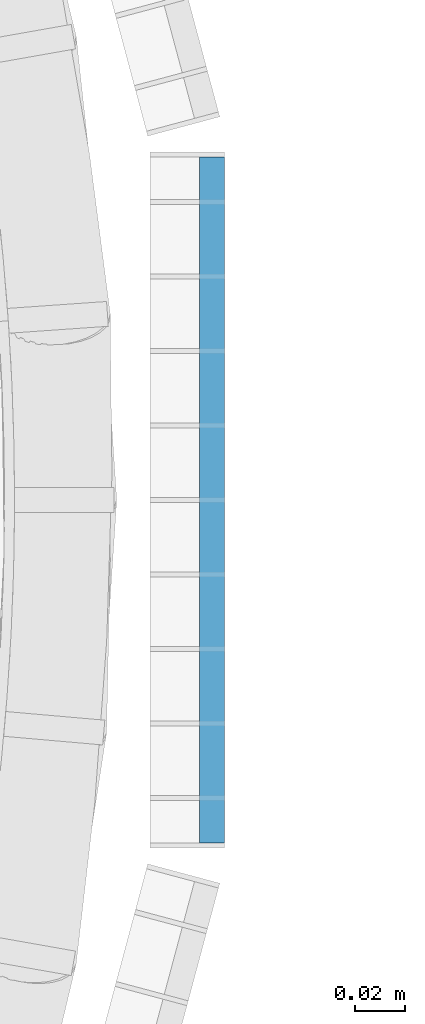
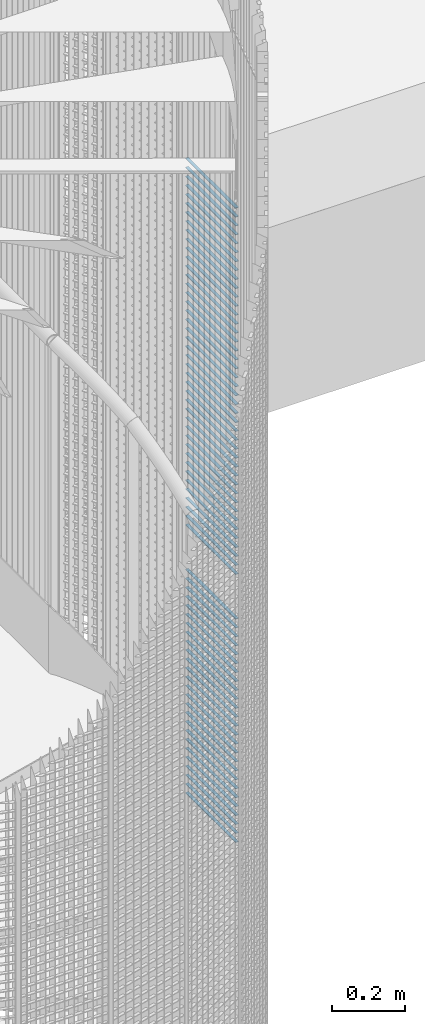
# One storey, part 284 of 1148: 68 beams, 1 element without a shape of its own.
"""IFC2X3 building model written with IfcOpenShell, lengths in millimetres."""

from ifc_helpers import new_model, si_unit, frame, origin_with_axes, origin_2d_with_axis, place, context, subcontext, project, spatial, rectangle, extrude, material, type_object, element, aggregate, save


model = new_model("IFC2X3")

# Units and contexts
model_context = context("Model", 3, precision=1e-05, world=origin_with_axes())
body_context = subcontext(model_context, "Body", "Model", "MODEL_VIEW")
ifc_project = project(units=[si_unit("LENGTHUNIT", "METRE", prefix="MILLI"), si_unit("AREAUNIT", "SQUARE_METRE"), si_unit("VOLUMEUNIT", "CUBIC_METRE"), si_unit("MASSUNIT", "GRAM", prefix="KILO"), si_unit("TIMEUNIT", "SECOND"), si_unit("PLANEANGLEUNIT", "RADIAN"), si_unit("SOLIDANGLEUNIT", "STERADIAN"), si_unit("THERMODYNAMICTEMPERATUREUNIT", "DEGREE_CELSIUS"), si_unit("LUMINOUSINTENSITYUNIT", "LUMEN")], contexts=[model_context])

# Site, building, storey
site_placement = place(None, origin_with_axes())
site = spatial("IfcSite", under=ifc_project, at=site_placement, Name="Undefined", CompositionType="ELEMENT")
building_placement = place(site_placement, origin_with_axes())
building = spatial("IfcBuilding", under=site, at=building_placement, Name="Undefined", CompositionType="ELEMENT")
storey_placement = place(building_placement, origin_with_axes())
storey = spatial("IfcBuildingStorey", under=building, at=storey_placement, Name="Undefined", CompositionType="ELEMENT", Elevation=0.0)

# Assembly, beams
assembly_placement = place(storey_placement, origin_with_axes())
assembly = element("IfcElementAssembly", 1, at=assembly_placement, inside=storey, Name="BORDURE", AssemblyPlace="NOTDEFINED", PredefinedType="NOTDEFINED")
ifc_material = material(Name="STEEL/S235JR")
beam_type = type_object("IfcBeamType", Name="PL2*10", PredefinedType="NOTDEFINED")
beam_1_placement = place(assembly_placement, frame((1113.47999999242, -137.996003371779, 8370.0), z_axis=(1.0, 0.0, 0.0), x_axis=(0.0, 1.0, 0.0)))
beam_1 = element("IfcBeam", 2, at=beam_1_placement, type_object=beam_type, material=ifc_material, Name="ENTRETOISE", context=body_context, shape_type="SweptSolid", body=[
    extrude(rectangle(XDim=2.0, YDim=10.0, at=origin_2d_with_axis()), frame((275.999999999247, 9.09494701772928e-13, 1.53210777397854e-14), z_axis=(-1.0, 0.0, 0.0), x_axis=(0.0, -1.0, 0.0)), (0.0, 0.0, 1.0), 276.0),
])
beam_2_placement = place(assembly_placement, frame((1113.47999999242, -137.996003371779, 8340.0), z_axis=(1.0, 0.0, 0.0), x_axis=(0.0, 1.0, 0.0)))
beam_2 = element("IfcBeam", 3, at=beam_2_placement, type_object=beam_type, material=ifc_material, Name="ENTRETOISE", context=body_context, shape_type="SweptSolid", body=[
    extrude(rectangle(XDim=2.0, YDim=10.0, at=origin_2d_with_axis()), frame((275.999999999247, 9.09494701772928e-13, 1.53210777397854e-14), z_axis=(-1.0, 0.0, 0.0), x_axis=(0.0, -1.0, 0.0)), (0.0, 0.0, 1.0), 276.0),
])
beam_3_placement = place(assembly_placement, frame((1113.47999999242, -137.996003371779, 8310.0), z_axis=(1.0, 0.0, 0.0), x_axis=(0.0, 1.0, 0.0)))
beam_3 = element("IfcBeam", 4, at=beam_3_placement, type_object=beam_type, material=ifc_material, Name="ENTRETOISE", context=body_context, shape_type="SweptSolid", body=[
    extrude(rectangle(XDim=2.0, YDim=10.0, at=origin_2d_with_axis()), frame((275.999999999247, 9.09494701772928e-13, 1.53210777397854e-14), z_axis=(-1.0, 0.0, 0.0), x_axis=(0.0, -1.0, 0.0)), (0.0, 0.0, 1.0), 276.0),
])
beam_4_placement = place(assembly_placement, frame((1113.47999999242, -137.996003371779, 8280.0), z_axis=(1.0, 0.0, 0.0), x_axis=(0.0, 1.0, 0.0)))
beam_4 = element("IfcBeam", 5, at=beam_4_placement, type_object=beam_type, material=ifc_material, Name="ENTRETOISE", context=body_context, shape_type="SweptSolid", body=[
    extrude(rectangle(XDim=2.0, YDim=10.0, at=origin_2d_with_axis()), frame((275.999999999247, 9.09494701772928e-13, 1.53210777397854e-14), z_axis=(-1.0, 0.0, 0.0), x_axis=(0.0, -1.0, 0.0)), (0.0, 0.0, 1.0), 276.0),
])
beam_5_placement = place(assembly_placement, frame((1113.47999999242, -137.996003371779, 8250.0), z_axis=(1.0, 0.0, 0.0), x_axis=(0.0, 1.0, 0.0)))
beam_5 = element("IfcBeam", 6, at=beam_5_placement, type_object=beam_type, material=ifc_material, Name="ENTRETOISE", context=body_context, shape_type="SweptSolid", body=[
    extrude(rectangle(XDim=2.0, YDim=10.0, at=origin_2d_with_axis()), frame((275.999999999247, 9.09494701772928e-13, 1.53210777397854e-14), z_axis=(-1.0, 0.0, 0.0), x_axis=(0.0, -1.0, 0.0)), (0.0, 0.0, 1.0), 276.0),
])
beam_6_placement = place(assembly_placement, frame((1113.47999999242, -137.996003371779, 8220.0), z_axis=(1.0, 0.0, 0.0), x_axis=(0.0, 1.0, 0.0)))
beam_6 = element("IfcBeam", 7, at=beam_6_placement, type_object=beam_type, material=ifc_material, Name="ENTRETOISE", context=body_context, shape_type="SweptSolid", body=[
    extrude(rectangle(XDim=2.0, YDim=10.0, at=origin_2d_with_axis()), frame((275.999999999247, 9.09494701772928e-13, 1.53210777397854e-14), z_axis=(-1.0, 0.0, 0.0), x_axis=(0.0, -1.0, 0.0)), (0.0, 0.0, 1.0), 276.0),
])
beam_7_placement = place(assembly_placement, frame((1113.47999999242, -137.996003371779, 8190.0), z_axis=(1.0, 0.0, 0.0), x_axis=(0.0, 1.0, 0.0)))
beam_7 = element("IfcBeam", 8, at=beam_7_placement, type_object=beam_type, material=ifc_material, Name="ENTRETOISE", context=body_context, shape_type="SweptSolid", body=[
    extrude(rectangle(XDim=2.0, YDim=10.0, at=origin_2d_with_axis()), frame((275.999999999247, 9.09494701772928e-13, 1.53210777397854e-14), z_axis=(-1.0, 0.0, 0.0), x_axis=(0.0, -1.0, 0.0)), (0.0, 0.0, 1.0), 276.0),
])
beam_8_placement = place(assembly_placement, frame((1113.47999999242, -137.996003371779, 8160.0), z_axis=(1.0, 0.0, 0.0), x_axis=(0.0, 1.0, 0.0)))
beam_8 = element("IfcBeam", 9, at=beam_8_placement, type_object=beam_type, material=ifc_material, Name="ENTRETOISE", context=body_context, shape_type="SweptSolid", body=[
    extrude(rectangle(XDim=2.0, YDim=10.0, at=origin_2d_with_axis()), frame((275.999999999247, 9.09494701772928e-13, 1.53210777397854e-14), z_axis=(-1.0, 0.0, 0.0), x_axis=(0.0, -1.0, 0.0)), (0.0, 0.0, 1.0), 276.0),
])
beam_9_placement = place(assembly_placement, frame((1113.47999999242, -137.996003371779, 8130.0), z_axis=(1.0, 0.0, 0.0), x_axis=(0.0, 1.0, 0.0)))
beam_9 = element("IfcBeam", 10, at=beam_9_placement, type_object=beam_type, material=ifc_material, Name="ENTRETOISE", context=body_context, shape_type="SweptSolid", body=[
    extrude(rectangle(XDim=2.0, YDim=10.0, at=origin_2d_with_axis()), frame((275.999999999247, 9.09494701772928e-13, 1.53210777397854e-14), z_axis=(-1.0, 0.0, 0.0), x_axis=(0.0, -1.0, 0.0)), (0.0, 0.0, 1.0), 276.0),
])
beam_10_placement = place(assembly_placement, frame((1113.47999999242, -137.996003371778, 8100.0), z_axis=(1.0, 0.0, 0.0), x_axis=(0.0, 1.0, 0.0)))
beam_10 = element("IfcBeam", 11, at=beam_10_placement, type_object=beam_type, material=ifc_material, Name="ENTRETOISE", context=body_context, shape_type="SweptSolid", body=[
    extrude(rectangle(XDim=2.0, YDim=10.0, at=origin_2d_with_axis()), frame((275.999999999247, 9.09494701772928e-13, 1.53210777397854e-14), z_axis=(-1.0, 0.0, 0.0), x_axis=(0.0, -1.0, 0.0)), (0.0, 0.0, 1.0), 276.0),
])
beam_11_placement = place(assembly_placement, frame((1113.47999999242, -137.996003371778, 8070.0), z_axis=(1.0, 0.0, 0.0), x_axis=(0.0, 1.0, 0.0)))
beam_11 = element("IfcBeam", 12, at=beam_11_placement, type_object=beam_type, material=ifc_material, Name="ENTRETOISE", context=body_context, shape_type="SweptSolid", body=[
    extrude(rectangle(XDim=2.0, YDim=10.0, at=origin_2d_with_axis()), frame((275.999999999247, 9.09494701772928e-13, 1.53210777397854e-14), z_axis=(-1.0, 0.0, 0.0), x_axis=(0.0, -1.0, 0.0)), (0.0, 0.0, 1.0), 276.0),
])
beam_12_placement = place(assembly_placement, frame((1113.47999999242, -137.996003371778, 8040.0), z_axis=(1.0, 0.0, 0.0), x_axis=(0.0, 1.0, 0.0)))
beam_12 = element("IfcBeam", 13, at=beam_12_placement, type_object=beam_type, material=ifc_material, Name="ENTRETOISE", context=body_context, shape_type="SweptSolid", body=[
    extrude(rectangle(XDim=2.0, YDim=10.0, at=origin_2d_with_axis()), frame((275.999999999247, 9.09494701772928e-13, 1.53210777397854e-14), z_axis=(-1.0, 0.0, 0.0), x_axis=(0.0, -1.0, 0.0)), (0.0, 0.0, 1.0), 276.0),
])
beam_13_placement = place(assembly_placement, frame((1113.47999999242, -137.996003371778, 8010.0), z_axis=(1.0, 0.0, 0.0), x_axis=(0.0, 1.0, 0.0)))
beam_13 = element("IfcBeam", 14, at=beam_13_placement, type_object=beam_type, material=ifc_material, Name="ENTRETOISE", context=body_context, shape_type="SweptSolid", body=[
    extrude(rectangle(XDim=2.0, YDim=10.0, at=origin_2d_with_axis()), frame((275.999999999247, 9.09494701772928e-13, 1.53210777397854e-14), z_axis=(-1.0, 0.0, 0.0), x_axis=(0.0, -1.0, 0.0)), (0.0, 0.0, 1.0), 276.0),
])
beam_14_placement = place(assembly_placement, frame((1113.47999999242, -137.996003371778, 7980.0), z_axis=(1.0, 0.0, 0.0), x_axis=(0.0, 1.0, 0.0)))
beam_14 = element("IfcBeam", 15, at=beam_14_placement, type_object=beam_type, material=ifc_material, Name="ENTRETOISE", context=body_context, shape_type="SweptSolid", body=[
    extrude(rectangle(XDim=2.0, YDim=10.0, at=origin_2d_with_axis()), frame((275.999999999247, 9.09494701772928e-13, 1.53210777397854e-14), z_axis=(-1.0, 0.0, 0.0), x_axis=(0.0, -1.0, 0.0)), (0.0, 0.0, 1.0), 276.0),
])
beam_15_placement = place(assembly_placement, frame((1113.47999999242, -137.996003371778, 7950.0), z_axis=(1.0, 0.0, 0.0), x_axis=(0.0, 1.0, 0.0)))
beam_15 = element("IfcBeam", 16, at=beam_15_placement, type_object=beam_type, material=ifc_material, Name="ENTRETOISE", context=body_context, shape_type="SweptSolid", body=[
    extrude(rectangle(XDim=2.0, YDim=10.0, at=origin_2d_with_axis()), frame((275.999999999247, 9.09494701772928e-13, 1.53210777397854e-14), z_axis=(-1.0, 0.0, 0.0), x_axis=(0.0, -1.0, 0.0)), (0.0, 0.0, 1.0), 276.0),
])
beam_16_placement = place(assembly_placement, frame((1113.47999999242, -137.996003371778, 7920.0), z_axis=(1.0, 0.0, 0.0), x_axis=(0.0, 1.0, 0.0)))
beam_16 = element("IfcBeam", 17, at=beam_16_placement, type_object=beam_type, material=ifc_material, Name="ENTRETOISE", context=body_context, shape_type="SweptSolid", body=[
    extrude(rectangle(XDim=2.0, YDim=10.0, at=origin_2d_with_axis()), frame((275.999999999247, 9.09494701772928e-13, 1.53210777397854e-14), z_axis=(-1.0, 0.0, 0.0), x_axis=(0.0, -1.0, 0.0)), (0.0, 0.0, 1.0), 276.0),
])
beam_17_placement = place(assembly_placement, frame((1113.47999999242, -137.996003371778, 7890.0), z_axis=(1.0, 0.0, 0.0), x_axis=(0.0, 1.0, 0.0)))
beam_17 = element("IfcBeam", 18, at=beam_17_placement, type_object=beam_type, material=ifc_material, Name="ENTRETOISE", context=body_context, shape_type="SweptSolid", body=[
    extrude(rectangle(XDim=2.0, YDim=10.0, at=origin_2d_with_axis()), frame((275.999999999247, 9.09494701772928e-13, 1.53210777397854e-14), z_axis=(-1.0, 0.0, 0.0), x_axis=(0.0, -1.0, 0.0)), (0.0, 0.0, 1.0), 276.0),
])
beam_18_placement = place(assembly_placement, frame((1113.47999999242, -137.996003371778, 7860.0), z_axis=(1.0, 0.0, 0.0), x_axis=(0.0, 1.0, 0.0)))
beam_18 = element("IfcBeam", 19, at=beam_18_placement, type_object=beam_type, material=ifc_material, Name="ENTRETOISE", context=body_context, shape_type="SweptSolid", body=[
    extrude(rectangle(XDim=2.0, YDim=10.0, at=origin_2d_with_axis()), frame((275.999999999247, 9.09494701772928e-13, 1.53210777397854e-14), z_axis=(-1.0, 0.0, 0.0), x_axis=(0.0, -1.0, 0.0)), (0.0, 0.0, 1.0), 276.0),
])
beam_19_placement = place(assembly_placement, frame((1113.47999999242, -137.996003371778, 7830.0), z_axis=(1.0, 0.0, 0.0), x_axis=(0.0, 1.0, 0.0)))
beam_19 = element("IfcBeam", 20, at=beam_19_placement, type_object=beam_type, material=ifc_material, Name="ENTRETOISE", context=body_context, shape_type="SweptSolid", body=[
    extrude(rectangle(XDim=2.0, YDim=10.0, at=origin_2d_with_axis()), frame((275.999999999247, 9.09494701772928e-13, 1.53210777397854e-14), z_axis=(-1.0, 0.0, 0.0), x_axis=(0.0, -1.0, 0.0)), (0.0, 0.0, 1.0), 276.0),
])
beam_20_placement = place(assembly_placement, frame((1113.47999999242, -137.996003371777, 7800.0), z_axis=(1.0, 0.0, 0.0), x_axis=(0.0, 1.0, 0.0)))
beam_20 = element("IfcBeam", 21, at=beam_20_placement, type_object=beam_type, material=ifc_material, Name="ENTRETOISE", context=body_context, shape_type="SweptSolid", body=[
    extrude(rectangle(XDim=2.0, YDim=10.0, at=origin_2d_with_axis()), frame((275.999999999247, 9.09494701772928e-13, 1.53210777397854e-14), z_axis=(-1.0, 0.0, 0.0), x_axis=(0.0, -1.0, 0.0)), (0.0, 0.0, 1.0), 276.0),
])
beam_21_placement = place(assembly_placement, frame((1113.47999999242, -137.996003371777, 7770.0), z_axis=(1.0, 0.0, 0.0), x_axis=(0.0, 1.0, 0.0)))
beam_21 = element("IfcBeam", 22, at=beam_21_placement, type_object=beam_type, material=ifc_material, Name="ENTRETOISE", context=body_context, shape_type="SweptSolid", body=[
    extrude(rectangle(XDim=2.0, YDim=10.0, at=origin_2d_with_axis()), frame((275.999999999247, 9.09494701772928e-13, 1.53210777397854e-14), z_axis=(-1.0, 0.0, 0.0), x_axis=(0.0, -1.0, 0.0)), (0.0, 0.0, 1.0), 276.0),
])
beam_22_placement = place(assembly_placement, frame((1113.47999999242, -137.996003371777, 7740.0), z_axis=(1.0, 0.0, 0.0), x_axis=(0.0, 1.0, 0.0)))
beam_22 = element("IfcBeam", 23, at=beam_22_placement, type_object=beam_type, material=ifc_material, Name="ENTRETOISE", context=body_context, shape_type="SweptSolid", body=[
    extrude(rectangle(XDim=2.0, YDim=10.0, at=origin_2d_with_axis()), frame((275.999999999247, 9.09494701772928e-13, 1.53210777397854e-14), z_axis=(-1.0, 0.0, 0.0), x_axis=(0.0, -1.0, 0.0)), (0.0, 0.0, 1.0), 276.0),
])
beam_23_placement = place(assembly_placement, frame((1113.47999999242, -137.996003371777, 7710.0), z_axis=(1.0, 0.0, 0.0), x_axis=(0.0, 1.0, 0.0)))
beam_23 = element("IfcBeam", 24, at=beam_23_placement, type_object=beam_type, material=ifc_material, Name="ENTRETOISE", context=body_context, shape_type="SweptSolid", body=[
    extrude(rectangle(XDim=2.0, YDim=10.0, at=origin_2d_with_axis()), frame((275.999999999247, 9.09494701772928e-13, 1.53210777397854e-14), z_axis=(-1.0, 0.0, 0.0), x_axis=(0.0, -1.0, 0.0)), (0.0, 0.0, 1.0), 276.0),
])
beam_24_placement = place(assembly_placement, frame((1113.47999999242, -137.996003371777, 7680.0), z_axis=(1.0, 0.0, 0.0), x_axis=(0.0, 1.0, 0.0)))
beam_24 = element("IfcBeam", 25, at=beam_24_placement, type_object=beam_type, material=ifc_material, Name="ENTRETOISE", context=body_context, shape_type="SweptSolid", body=[
    extrude(rectangle(XDim=2.0, YDim=10.0, at=origin_2d_with_axis()), frame((275.999999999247, 9.09494701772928e-13, 1.53210777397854e-14), z_axis=(-1.0, 0.0, 0.0), x_axis=(0.0, -1.0, 0.0)), (0.0, 0.0, 1.0), 276.0),
])
beam_25_placement = place(assembly_placement, frame((1113.47999999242, -137.996003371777, 7650.0), z_axis=(1.0, 0.0, 0.0), x_axis=(0.0, 1.0, 0.0)))
beam_25 = element("IfcBeam", 26, at=beam_25_placement, type_object=beam_type, material=ifc_material, Name="ENTRETOISE", context=body_context, shape_type="SweptSolid", body=[
    extrude(rectangle(XDim=2.0, YDim=10.0, at=origin_2d_with_axis()), frame((275.999999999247, 9.09494701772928e-13, 1.53210777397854e-14), z_axis=(-1.0, 0.0, 0.0), x_axis=(0.0, -1.0, 0.0)), (0.0, 0.0, 1.0), 276.0),
])
beam_26_placement = place(assembly_placement, frame((1113.47999999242, -137.996003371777, 7620.0), z_axis=(1.0, 0.0, 0.0), x_axis=(0.0, 1.0, 0.0)))
beam_26 = element("IfcBeam", 27, at=beam_26_placement, type_object=beam_type, material=ifc_material, Name="ENTRETOISE", context=body_context, shape_type="SweptSolid", body=[
    extrude(rectangle(XDim=2.0, YDim=10.0, at=origin_2d_with_axis()), frame((275.999999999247, 9.09494701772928e-13, 1.53210777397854e-14), z_axis=(-1.0, 0.0, 0.0), x_axis=(0.0, -1.0, 0.0)), (0.0, 0.0, 1.0), 276.0),
])
beam_27_placement = place(assembly_placement, frame((1113.47999999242, -137.996003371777, 7590.0), z_axis=(1.0, 0.0, 0.0), x_axis=(0.0, 1.0, 0.0)))
beam_27 = element("IfcBeam", 28, at=beam_27_placement, type_object=beam_type, material=ifc_material, Name="ENTRETOISE", context=body_context, shape_type="SweptSolid", body=[
    extrude(rectangle(XDim=2.0, YDim=10.0, at=origin_2d_with_axis()), frame((275.999999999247, 9.09494701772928e-13, 1.53210777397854e-14), z_axis=(-1.0, 0.0, 0.0), x_axis=(0.0, -1.0, 0.0)), (0.0, 0.0, 1.0), 276.0),
])
beam_28_placement = place(assembly_placement, frame((1113.47999999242, -137.996003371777, 7560.0), z_axis=(1.0, 0.0, 0.0), x_axis=(0.0, 1.0, 0.0)))
beam_28 = element("IfcBeam", 29, at=beam_28_placement, type_object=beam_type, material=ifc_material, Name="ENTRETOISE", context=body_context, shape_type="SweptSolid", body=[
    extrude(rectangle(XDim=2.0, YDim=10.0, at=origin_2d_with_axis()), frame((275.999999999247, 9.09494701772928e-13, 1.53210777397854e-14), z_axis=(-1.0, 0.0, 0.0), x_axis=(0.0, -1.0, 0.0)), (0.0, 0.0, 1.0), 276.0),
])
beam_29_placement = place(assembly_placement, frame((1113.47999999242, -137.996003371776, 7530.0), z_axis=(1.0, 0.0, 0.0), x_axis=(0.0, 1.0, 0.0)))
beam_29 = element("IfcBeam", 30, at=beam_29_placement, type_object=beam_type, material=ifc_material, Name="ENTRETOISE", context=body_context, shape_type="SweptSolid", body=[
    extrude(rectangle(XDim=2.0, YDim=10.0, at=origin_2d_with_axis()), frame((275.999999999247, 9.09494701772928e-13, 1.53210777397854e-14), z_axis=(-1.0, 0.0, 0.0), x_axis=(0.0, -1.0, 0.0)), (0.0, 0.0, 1.0), 276.0),
])
beam_30_placement = place(assembly_placement, frame((1113.47999999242, -137.996003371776, 7500.0), z_axis=(1.0, 0.0, 0.0), x_axis=(0.0, 1.0, 0.0)))
beam_30 = element("IfcBeam", 31, at=beam_30_placement, type_object=beam_type, material=ifc_material, Name="ENTRETOISE", context=body_context, shape_type="SweptSolid", body=[
    extrude(rectangle(XDim=2.0, YDim=10.0, at=origin_2d_with_axis()), frame((275.999999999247, 9.09494701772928e-13, 1.53210777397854e-14), z_axis=(-1.0, 0.0, 0.0), x_axis=(0.0, -1.0, 0.0)), (0.0, 0.0, 1.0), 276.0),
])
beam_31_placement = place(assembly_placement, frame((1113.47999999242, -137.996003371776, 7470.0), z_axis=(1.0, 0.0, 0.0), x_axis=(0.0, 1.0, 0.0)))
beam_31 = element("IfcBeam", 32, at=beam_31_placement, type_object=beam_type, material=ifc_material, Name="ENTRETOISE", context=body_context, shape_type="SweptSolid", body=[
    extrude(rectangle(XDim=2.0, YDim=10.0, at=origin_2d_with_axis()), frame((275.999999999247, 9.09494701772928e-13, 1.53210777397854e-14), z_axis=(-1.0, 0.0, 0.0), x_axis=(0.0, -1.0, 0.0)), (0.0, 0.0, 1.0), 276.0),
])
beam_32_placement = place(assembly_placement, frame((1113.47999999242, -137.996003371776, 7440.0), z_axis=(1.0, 0.0, 0.0), x_axis=(0.0, 1.0, 0.0)))
beam_32 = element("IfcBeam", 33, at=beam_32_placement, type_object=beam_type, material=ifc_material, Name="ENTRETOISE", context=body_context, shape_type="SweptSolid", body=[
    extrude(rectangle(XDim=2.0, YDim=10.0, at=origin_2d_with_axis()), frame((275.999999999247, 9.09494701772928e-13, 1.53210777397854e-14), z_axis=(-1.0, 0.0, 0.0), x_axis=(0.0, -1.0, 0.0)), (0.0, 0.0, 1.0), 276.0),
])
beam_33_placement = place(assembly_placement, frame((1113.47999999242, -137.996003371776, 7410.0), z_axis=(1.0, 0.0, 0.0), x_axis=(0.0, 1.0, 0.0)))
beam_33 = element("IfcBeam", 34, at=beam_33_placement, type_object=beam_type, material=ifc_material, Name="ENTRETOISE", context=body_context, shape_type="SweptSolid", body=[
    extrude(rectangle(XDim=2.0, YDim=10.0, at=origin_2d_with_axis()), frame((275.999999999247, 9.09494701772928e-13, 1.53210777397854e-14), z_axis=(-1.0, 0.0, 0.0), x_axis=(0.0, -1.0, 0.0)), (0.0, 0.0, 1.0), 276.0),
])
beam_34_placement = place(assembly_placement, frame((1113.47999999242, -137.996003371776, 7380.0), z_axis=(1.0, 0.0, 0.0), x_axis=(0.0, 1.0, 0.0)))
beam_34 = element("IfcBeam", 35, at=beam_34_placement, type_object=beam_type, material=ifc_material, Name="ENTRETOISE", context=body_context, shape_type="SweptSolid", body=[
    extrude(rectangle(XDim=2.0, YDim=10.0, at=origin_2d_with_axis()), frame((275.999999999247, 9.09494701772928e-13, 1.53210777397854e-14), z_axis=(-1.0, 0.0, 0.0), x_axis=(0.0, -1.0, 0.0)), (0.0, 0.0, 1.0), 276.0),
])
beam_35_placement = place(assembly_placement, frame((1113.47999999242, -137.996003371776, 7350.0), z_axis=(1.0, 0.0, 0.0), x_axis=(0.0, 1.0, 0.0)))
beam_35 = element("IfcBeam", 36, at=beam_35_placement, type_object=beam_type, material=ifc_material, Name="ENTRETOISE", context=body_context, shape_type="SweptSolid", body=[
    extrude(rectangle(XDim=2.0, YDim=10.0, at=origin_2d_with_axis()), frame((275.999999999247, 9.09494701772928e-13, 1.53210777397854e-14), z_axis=(-1.0, 0.0, 0.0), x_axis=(0.0, -1.0, 0.0)), (0.0, 0.0, 1.0), 276.0),
])
beam_36_placement = place(assembly_placement, frame((1113.47999999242, -137.996003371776, 7320.0), z_axis=(1.0, 0.0, 0.0), x_axis=(0.0, 1.0, 0.0)))
beam_36 = element("IfcBeam", 37, at=beam_36_placement, type_object=beam_type, material=ifc_material, Name="ENTRETOISE", context=body_context, shape_type="SweptSolid", body=[
    extrude(rectangle(XDim=2.0, YDim=10.0, at=origin_2d_with_axis()), frame((275.999999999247, 9.09494701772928e-13, 1.53210777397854e-14), z_axis=(-1.0, 0.0, 0.0), x_axis=(0.0, -1.0, 0.0)), (0.0, 0.0, 1.0), 276.0),
])
beam_37_placement = place(assembly_placement, frame((1113.47999999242, -137.996003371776, 7290.0), z_axis=(1.0, 0.0, 0.0), x_axis=(0.0, 1.0, 0.0)))
beam_37 = element("IfcBeam", 38, at=beam_37_placement, type_object=beam_type, material=ifc_material, Name="ENTRETOISE", context=body_context, shape_type="SweptSolid", body=[
    extrude(rectangle(XDim=2.0, YDim=10.0, at=origin_2d_with_axis()), frame((275.999999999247, 9.09494701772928e-13, 1.53210777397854e-14), z_axis=(-1.0, 0.0, 0.0), x_axis=(0.0, -1.0, 0.0)), (0.0, 0.0, 1.0), 276.0),
])
beam_38_placement = place(assembly_placement, frame((1113.47999999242, -137.996003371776, 7260.0), z_axis=(1.0, 0.0, 0.0), x_axis=(0.0, 1.0, 0.0)))
beam_38 = element("IfcBeam", 39, at=beam_38_placement, type_object=beam_type, material=ifc_material, Name="ENTRETOISE", context=body_context, shape_type="SweptSolid", body=[
    extrude(rectangle(XDim=2.0, YDim=10.0, at=origin_2d_with_axis()), frame((275.999999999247, 9.09494701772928e-13, 1.53210777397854e-14), z_axis=(-1.0, 0.0, 0.0), x_axis=(0.0, -1.0, 0.0)), (0.0, 0.0, 1.0), 276.0),
])
beam_39_placement = place(assembly_placement, frame((1113.47999999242, -137.996003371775, 7230.0), z_axis=(1.0, 0.0, 0.0), x_axis=(0.0, 1.0, 0.0)))
beam_39 = element("IfcBeam", 40, at=beam_39_placement, type_object=beam_type, material=ifc_material, Name="ENTRETOISE", context=body_context, shape_type="SweptSolid", body=[
    extrude(rectangle(XDim=2.0, YDim=10.0, at=origin_2d_with_axis()), frame((275.999999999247, 9.09494701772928e-13, 1.53210777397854e-14), z_axis=(-1.0, 0.0, 0.0), x_axis=(0.0, -1.0, 0.0)), (0.0, 0.0, 1.0), 276.0),
])
beam_40_placement = place(assembly_placement, frame((1113.47999999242, -137.996003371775, 7200.0), z_axis=(1.0, 0.0, 0.0), x_axis=(0.0, 1.0, 0.0)))
beam_40 = element("IfcBeam", 41, at=beam_40_placement, type_object=beam_type, material=ifc_material, Name="ENTRETOISE", context=body_context, shape_type="SweptSolid", body=[
    extrude(rectangle(XDim=2.0, YDim=10.0, at=origin_2d_with_axis()), frame((275.999999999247, 9.09494701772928e-13, 1.53210777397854e-14), z_axis=(-1.0, 0.0, 0.0), x_axis=(0.0, -1.0, 0.0)), (0.0, 0.0, 1.0), 276.0),
])
beam_41_placement = place(assembly_placement, frame((1113.47999999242, -137.996003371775, 7170.0), z_axis=(1.0, 0.0, 0.0), x_axis=(0.0, 1.0, 0.0)))
beam_41 = element("IfcBeam", 42, at=beam_41_placement, type_object=beam_type, material=ifc_material, Name="ENTRETOISE", context=body_context, shape_type="SweptSolid", body=[
    extrude(rectangle(XDim=2.0, YDim=10.0, at=origin_2d_with_axis()), frame((275.999999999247, 9.09494701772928e-13, 1.53210777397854e-14), z_axis=(-1.0, 0.0, 0.0), x_axis=(0.0, -1.0, 0.0)), (0.0, 0.0, 1.0), 276.0),
])
beam_42_placement = place(assembly_placement, frame((1113.47999999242, -137.996003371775, 7140.0), z_axis=(1.0, 0.0, 0.0), x_axis=(0.0, 1.0, 0.0)))
beam_42 = element("IfcBeam", 43, at=beam_42_placement, type_object=beam_type, material=ifc_material, Name="ENTRETOISE", context=body_context, shape_type="SweptSolid", body=[
    extrude(rectangle(XDim=2.0, YDim=10.0, at=origin_2d_with_axis()), frame((275.999999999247, 9.09494701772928e-13, 1.53210777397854e-14), z_axis=(-1.0, 0.0, 0.0), x_axis=(0.0, -1.0, 0.0)), (0.0, 0.0, 1.0), 276.0),
])
beam_43_placement = place(assembly_placement, frame((1113.47999999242, -137.996003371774, 6720.0), z_axis=(1.0, 0.0, 0.0), x_axis=(0.0, 1.0, 0.0)))
beam_43 = element("IfcBeam", 44, at=beam_43_placement, type_object=beam_type, material=ifc_material, Name="ENTRETOISE", context=body_context, shape_type="SweptSolid", body=[
    extrude(rectangle(XDim=2.0, YDim=10.0, at=origin_2d_with_axis()), frame((275.999999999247, 9.09494701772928e-13, 1.53210777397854e-14), z_axis=(-1.0, 0.0, 0.0), x_axis=(0.0, -1.0, 0.0)), (0.0, 0.0, 1.0), 276.0),
])
beam_44_placement = place(assembly_placement, frame((1113.47999999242, -137.996003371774, 6690.0), z_axis=(1.0, 0.0, 0.0), x_axis=(0.0, 1.0, 0.0)))
beam_44 = element("IfcBeam", 45, at=beam_44_placement, type_object=beam_type, material=ifc_material, Name="ENTRETOISE", context=body_context, shape_type="SweptSolid", body=[
    extrude(rectangle(XDim=2.0, YDim=10.0, at=origin_2d_with_axis()), frame((275.999999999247, 9.09494701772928e-13, 1.53210777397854e-14), z_axis=(-1.0, 0.0, 0.0), x_axis=(0.0, -1.0, 0.0)), (0.0, 0.0, 1.0), 276.0),
])
beam_45_placement = place(assembly_placement, frame((1113.47999999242, -137.996003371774, 6750.0), z_axis=(1.0, 0.0, 0.0), x_axis=(0.0, 1.0, 0.0)))
beam_45 = element("IfcBeam", 46, at=beam_45_placement, type_object=beam_type, material=ifc_material, Name="ENTRETOISE", context=body_context, shape_type="SweptSolid", body=[
    extrude(rectangle(XDim=2.0, YDim=10.0, at=origin_2d_with_axis()), frame((275.999999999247, 9.09494701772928e-13, 1.53210777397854e-14), z_axis=(-1.0, 0.0, 0.0), x_axis=(0.0, -1.0, 0.0)), (0.0, 0.0, 1.0), 276.0),
])
beam_46_placement = place(assembly_placement, frame((1113.47999999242, -137.996003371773, 6660.0), z_axis=(1.0, 0.0, 0.0), x_axis=(0.0, 1.0, 0.0)))
beam_46 = element("IfcBeam", 47, at=beam_46_placement, type_object=beam_type, material=ifc_material, Name="ENTRETOISE", context=body_context, shape_type="SweptSolid", body=[
    extrude(rectangle(XDim=2.0, YDim=10.0, at=origin_2d_with_axis()), frame((275.999999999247, 9.09494701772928e-13, 1.53210777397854e-14), z_axis=(-1.0, 0.0, 0.0), x_axis=(0.0, -1.0, 0.0)), (0.0, 0.0, 1.0), 276.0),
])
beam_47_placement = place(assembly_placement, frame((1113.47999999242, -137.996003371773, 6630.0), z_axis=(1.0, 0.0, 0.0), x_axis=(0.0, 1.0, 0.0)))
beam_47 = element("IfcBeam", 48, at=beam_47_placement, type_object=beam_type, material=ifc_material, Name="ENTRETOISE", context=body_context, shape_type="SweptSolid", body=[
    extrude(rectangle(XDim=2.0, YDim=10.0, at=origin_2d_with_axis()), frame((275.999999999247, 9.09494701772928e-13, 1.53210777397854e-14), z_axis=(-1.0, 0.0, 0.0), x_axis=(0.0, -1.0, 0.0)), (0.0, 0.0, 1.0), 276.0),
])
beam_48_placement = place(assembly_placement, frame((1113.47999999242, -137.996003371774, 6780.0), z_axis=(1.0, 0.0, 0.0), x_axis=(0.0, 1.0, 0.0)))
beam_48 = element("IfcBeam", 49, at=beam_48_placement, type_object=beam_type, material=ifc_material, Name="ENTRETOISE", context=body_context, shape_type="SweptSolid", body=[
    extrude(rectangle(XDim=2.0, YDim=10.0, at=origin_2d_with_axis()), frame((275.999999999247, 9.09494701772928e-13, 1.53210777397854e-14), z_axis=(-1.0, 0.0, 0.0), x_axis=(0.0, -1.0, 0.0)), (0.0, 0.0, 1.0), 276.0),
])
beam_49_placement = place(assembly_placement, frame((1113.47999999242, -137.996003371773, 6600.0), z_axis=(1.0, 0.0, 0.0), x_axis=(0.0, 1.0, 0.0)))
beam_49 = element("IfcBeam", 50, at=beam_49_placement, type_object=beam_type, material=ifc_material, Name="ENTRETOISE", context=body_context, shape_type="SweptSolid", body=[
    extrude(rectangle(XDim=2.0, YDim=10.0, at=origin_2d_with_axis()), frame((275.999999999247, 9.09494701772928e-13, 1.53210777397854e-14), z_axis=(-1.0, 0.0, 0.0), x_axis=(0.0, -1.0, 0.0)), (0.0, 0.0, 1.0), 276.0),
])
beam_50_placement = place(assembly_placement, frame((1113.47999999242, -137.996003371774, 6810.0), z_axis=(1.0, 0.0, 0.0), x_axis=(0.0, 1.0, 0.0)))
beam_50 = element("IfcBeam", 51, at=beam_50_placement, type_object=beam_type, material=ifc_material, Name="ENTRETOISE", context=body_context, shape_type="SweptSolid", body=[
    extrude(rectangle(XDim=2.0, YDim=10.0, at=origin_2d_with_axis()), frame((275.999999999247, 9.09494701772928e-13, 1.53210777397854e-14), z_axis=(-1.0, 0.0, 0.0), x_axis=(0.0, -1.0, 0.0)), (0.0, 0.0, 1.0), 276.0),
])
beam_51_placement = place(assembly_placement, frame((1113.47999999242, -137.996003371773, 6570.0), z_axis=(1.0, 0.0, 0.0), x_axis=(0.0, 1.0, 0.0)))
beam_51 = element("IfcBeam", 52, at=beam_51_placement, type_object=beam_type, material=ifc_material, Name="ENTRETOISE", context=body_context, shape_type="SweptSolid", body=[
    extrude(rectangle(XDim=2.0, YDim=10.0, at=origin_2d_with_axis()), frame((275.999999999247, 9.09494701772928e-13, 1.53210777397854e-14), z_axis=(-1.0, 0.0, 0.0), x_axis=(0.0, -1.0, 0.0)), (0.0, 0.0, 1.0), 276.0),
])
beam_52_placement = place(assembly_placement, frame((1113.47999999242, -137.996003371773, 6540.0), z_axis=(1.0, 0.0, 0.0), x_axis=(0.0, 1.0, 0.0)))
beam_52 = element("IfcBeam", 53, at=beam_52_placement, type_object=beam_type, material=ifc_material, Name="ENTRETOISE", context=body_context, shape_type="SweptSolid", body=[
    extrude(rectangle(XDim=2.0, YDim=10.0, at=origin_2d_with_axis()), frame((275.999999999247, 9.09494701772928e-13, 1.53210777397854e-14), z_axis=(-1.0, 0.0, 0.0), x_axis=(0.0, -1.0, 0.0)), (0.0, 0.0, 1.0), 276.0),
])
beam_53_placement = place(assembly_placement, frame((1113.47999999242, -137.996003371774, 6840.0), z_axis=(1.0, 0.0, 0.0), x_axis=(0.0, 1.0, 0.0)))
beam_53 = element("IfcBeam", 54, at=beam_53_placement, type_object=beam_type, material=ifc_material, Name="ENTRETOISE", context=body_context, shape_type="SweptSolid", body=[
    extrude(rectangle(XDim=2.0, YDim=10.0, at=origin_2d_with_axis()), frame((275.999999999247, 9.09494701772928e-13, 1.53210777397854e-14), z_axis=(-1.0, 0.0, 0.0), x_axis=(0.0, -1.0, 0.0)), (0.0, 0.0, 1.0), 276.0),
])
beam_54_placement = place(assembly_placement, frame((1113.47999999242, -137.996003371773, 6510.0), z_axis=(1.0, 0.0, 0.0), x_axis=(0.0, 1.0, 0.0)))
beam_54 = element("IfcBeam", 55, at=beam_54_placement, type_object=beam_type, material=ifc_material, Name="ENTRETOISE", context=body_context, shape_type="SweptSolid", body=[
    extrude(rectangle(XDim=2.0, YDim=10.0, at=origin_2d_with_axis()), frame((275.999999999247, 9.09494701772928e-13, 1.53210777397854e-14), z_axis=(-1.0, 0.0, 0.0), x_axis=(0.0, -1.0, 0.0)), (0.0, 0.0, 1.0), 276.0),
])
beam_55_placement = place(assembly_placement, frame((1113.47999999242, -137.996003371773, 6480.0), z_axis=(1.0, 0.0, 0.0), x_axis=(0.0, 1.0, 0.0)))
beam_55 = element("IfcBeam", 56, at=beam_55_placement, type_object=beam_type, material=ifc_material, Name="ENTRETOISE", context=body_context, shape_type="SweptSolid", body=[
    extrude(rectangle(XDim=2.0, YDim=10.0, at=origin_2d_with_axis()), frame((275.999999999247, 9.09494701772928e-13, 1.53210777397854e-14), z_axis=(-1.0, 0.0, 0.0), x_axis=(0.0, -1.0, 0.0)), (0.0, 0.0, 1.0), 276.0),
])
beam_56_placement = place(assembly_placement, frame((1113.47999999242, -137.996003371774, 6870.0), z_axis=(1.0, 0.0, 0.0), x_axis=(0.0, 1.0, 0.0)))
beam_56 = element("IfcBeam", 57, at=beam_56_placement, type_object=beam_type, material=ifc_material, Name="ENTRETOISE", context=body_context, shape_type="SweptSolid", body=[
    extrude(rectangle(XDim=2.0, YDim=10.0, at=origin_2d_with_axis()), frame((275.999999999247, 9.09494701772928e-13, 1.53210777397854e-14), z_axis=(-1.0, 0.0, 0.0), x_axis=(0.0, -1.0, 0.0)), (0.0, 0.0, 1.0), 276.0),
])
beam_57_placement = place(assembly_placement, frame((1113.47999999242, -137.996003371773, 6450.0), z_axis=(1.0, 0.0, 0.0), x_axis=(0.0, 1.0, 0.0)))
beam_57 = element("IfcBeam", 58, at=beam_57_placement, type_object=beam_type, material=ifc_material, Name="ENTRETOISE", context=body_context, shape_type="SweptSolid", body=[
    extrude(rectangle(XDim=2.0, YDim=10.0, at=origin_2d_with_axis()), frame((275.999999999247, 9.09494701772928e-13, 1.53210777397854e-14), z_axis=(-1.0, 0.0, 0.0), x_axis=(0.0, -1.0, 0.0)), (0.0, 0.0, 1.0), 276.0),
])
beam_58_placement = place(assembly_placement, frame((1113.47999999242, -137.996003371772, 6420.0), z_axis=(1.0, 0.0, 0.0), x_axis=(0.0, 1.0, 0.0)))
beam_58 = element("IfcBeam", 59, at=beam_58_placement, type_object=beam_type, material=ifc_material, Name="ENTRETOISE", context=body_context, shape_type="SweptSolid", body=[
    extrude(rectangle(XDim=2.0, YDim=10.0, at=origin_2d_with_axis()), frame((275.999999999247, 9.09494701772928e-13, 1.53210777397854e-14), z_axis=(-1.0, 0.0, 0.0), x_axis=(0.0, -1.0, 0.0)), (0.0, 0.0, 1.0), 276.0),
])
beam_59_placement = place(assembly_placement, frame((1113.47999999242, -137.996003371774, 6900.0), z_axis=(1.0, 0.0, 0.0), x_axis=(0.0, 1.0, 0.0)))
beam_59 = element("IfcBeam", 60, at=beam_59_placement, type_object=beam_type, material=ifc_material, Name="ENTRETOISE", context=body_context, shape_type="SweptSolid", body=[
    extrude(rectangle(XDim=2.0, YDim=10.0, at=origin_2d_with_axis()), frame((275.999999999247, 9.09494701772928e-13, 1.53210777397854e-14), z_axis=(-1.0, 0.0, 0.0), x_axis=(0.0, -1.0, 0.0)), (0.0, 0.0, 1.0), 276.0),
])
beam_60_placement = place(assembly_placement, frame((1113.47999999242, -137.996003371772, 6390.0), z_axis=(1.0, 0.0, 0.0), x_axis=(0.0, 1.0, 0.0)))
beam_60 = element("IfcBeam", 61, at=beam_60_placement, type_object=beam_type, material=ifc_material, Name="ENTRETOISE", context=body_context, shape_type="SweptSolid", body=[
    extrude(rectangle(XDim=2.0, YDim=10.0, at=origin_2d_with_axis()), frame((275.999999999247, 9.09494701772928e-13, 1.53210777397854e-14), z_axis=(-1.0, 0.0, 0.0), x_axis=(0.0, -1.0, 0.0)), (0.0, 0.0, 1.0), 276.0),
])
beam_61_placement = place(assembly_placement, frame((1113.47999999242, -137.996003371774, 6930.0), z_axis=(1.0, 0.0, 0.0), x_axis=(0.0, 1.0, 0.0)))
beam_61 = element("IfcBeam", 62, at=beam_61_placement, type_object=beam_type, material=ifc_material, Name="ENTRETOISE", context=body_context, shape_type="SweptSolid", body=[
    extrude(rectangle(XDim=2.0, YDim=10.0, at=origin_2d_with_axis()), frame((275.999999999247, 9.09494701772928e-13, 1.53210777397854e-14), z_axis=(-1.0, 0.0, 0.0), x_axis=(0.0, -1.0, 0.0)), (0.0, 0.0, 1.0), 276.0),
])
beam_62_placement = place(assembly_placement, frame((1113.47999999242, -137.996003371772, 6360.0), z_axis=(1.0, 0.0, 0.0), x_axis=(0.0, 1.0, 0.0)))
beam_62 = element("IfcBeam", 63, at=beam_62_placement, type_object=beam_type, material=ifc_material, Name="ENTRETOISE", context=body_context, shape_type="SweptSolid", body=[
    extrude(rectangle(XDim=2.0, YDim=10.0, at=origin_2d_with_axis()), frame((275.999999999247, 9.09494701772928e-13, 1.53210777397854e-14), z_axis=(-1.0, 0.0, 0.0), x_axis=(0.0, -1.0, 0.0)), (0.0, 0.0, 1.0), 276.0),
])
beam_63_placement = place(assembly_placement, frame((1113.47999999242, -137.996003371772, 6330.0), z_axis=(1.0, 0.0, 0.0), x_axis=(0.0, 1.0, 0.0)))
beam_63 = element("IfcBeam", 64, at=beam_63_placement, type_object=beam_type, material=ifc_material, Name="ENTRETOISE", context=body_context, shape_type="SweptSolid", body=[
    extrude(rectangle(XDim=2.0, YDim=10.0, at=origin_2d_with_axis()), frame((275.999999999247, 9.09494701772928e-13, 1.53210777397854e-14), z_axis=(-1.0, 0.0, 0.0), x_axis=(0.0, -1.0, 0.0)), (0.0, 0.0, 1.0), 276.0),
])
beam_64_placement = place(assembly_placement, frame((1113.47999999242, -137.996003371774, 6960.0), z_axis=(1.0, 0.0, 0.0), x_axis=(0.0, 1.0, 0.0)))
beam_64 = element("IfcBeam", 65, at=beam_64_placement, type_object=beam_type, material=ifc_material, Name="ENTRETOISE", context=body_context, shape_type="SweptSolid", body=[
    extrude(rectangle(XDim=2.0, YDim=10.0, at=origin_2d_with_axis()), frame((275.999999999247, 9.09494701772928e-13, 1.53210777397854e-14), z_axis=(-1.0, 0.0, 0.0), x_axis=(0.0, -1.0, 0.0)), (0.0, 0.0, 1.0), 276.0),
])
beam_65_placement = place(assembly_placement, frame((1113.47999999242, -137.996003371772, 6300.0), z_axis=(1.0, 0.0, 0.0), x_axis=(0.0, 1.0, 0.0)))
beam_65 = element("IfcBeam", 66, at=beam_65_placement, type_object=beam_type, material=ifc_material, Name="ENTRETOISE", context=body_context, shape_type="SweptSolid", body=[
    extrude(rectangle(XDim=2.0, YDim=10.0, at=origin_2d_with_axis()), frame((275.999999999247, 9.09494701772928e-13, 1.53210777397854e-14), z_axis=(-1.0, 0.0, 0.0), x_axis=(0.0, -1.0, 0.0)), (0.0, 0.0, 1.0), 276.0),
])
beam_66_placement = place(assembly_placement, frame((1113.47999999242, -137.996003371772, 6270.0), z_axis=(1.0, 0.0, 0.0), x_axis=(0.0, 1.0, 0.0)))
beam_66 = element("IfcBeam", 67, at=beam_66_placement, type_object=beam_type, material=ifc_material, Name="ENTRETOISE", context=body_context, shape_type="SweptSolid", body=[
    extrude(rectangle(XDim=2.0, YDim=10.0, at=origin_2d_with_axis()), frame((275.999999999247, 9.09494701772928e-13, 1.53210777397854e-14), z_axis=(-1.0, 0.0, 0.0), x_axis=(0.0, -1.0, 0.0)), (0.0, 0.0, 1.0), 276.0),
])
beam_67_placement = place(assembly_placement, frame((1113.47999999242, -137.996003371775, 6990.0), z_axis=(1.0, 0.0, 0.0), x_axis=(0.0, 1.0, 0.0)))
beam_67 = element("IfcBeam", 68, at=beam_67_placement, type_object=beam_type, material=ifc_material, Name="ENTRETOISE", context=body_context, shape_type="SweptSolid", body=[
    extrude(rectangle(XDim=2.0, YDim=10.0, at=origin_2d_with_axis()), frame((275.999999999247, 9.09494701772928e-13, 1.53210777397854e-14), z_axis=(-1.0, 0.0, 0.0), x_axis=(0.0, -1.0, 0.0)), (0.0, 0.0, 1.0), 276.0),
])
beam_68_placement = place(assembly_placement, frame((1113.47999999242, -137.996003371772, 6240.0), z_axis=(1.0, 0.0, 0.0), x_axis=(0.0, 1.0, 0.0)))
beam_68 = element("IfcBeam", 69, at=beam_68_placement, type_object=beam_type, material=ifc_material, Name="ENTRETOISE", context=body_context, shape_type="SweptSolid", body=[
    extrude(rectangle(XDim=2.0, YDim=10.0, at=origin_2d_with_axis()), frame((275.999999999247, 9.09494701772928e-13, 1.53210777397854e-14), z_axis=(-1.0, 0.0, 0.0), x_axis=(0.0, -1.0, 0.0)), (0.0, 0.0, 1.0), 276.0),
])
aggregate(assembly, [beam_1, beam_2, beam_3, beam_4, beam_5, beam_6, beam_7, beam_8, beam_9, beam_10, beam_11, beam_12, beam_13, beam_14, beam_15, beam_16, beam_17, beam_18, beam_19, beam_20, beam_21, beam_22, beam_23, beam_24, beam_25, beam_26, beam_27, beam_28, beam_29, beam_30, beam_31, beam_32, beam_33, beam_34, beam_35, beam_36, beam_37, beam_38, beam_39, beam_40, beam_41, beam_42, beam_43, beam_44, beam_45, beam_46, beam_47, beam_48, beam_49, beam_50, beam_51, beam_52, beam_53, beam_54, beam_55, beam_56, beam_57, beam_58, beam_59, beam_60, beam_61, beam_62, beam_63, beam_64, beam_65, beam_66, beam_67, beam_68])

save(model, "model.ifc")
